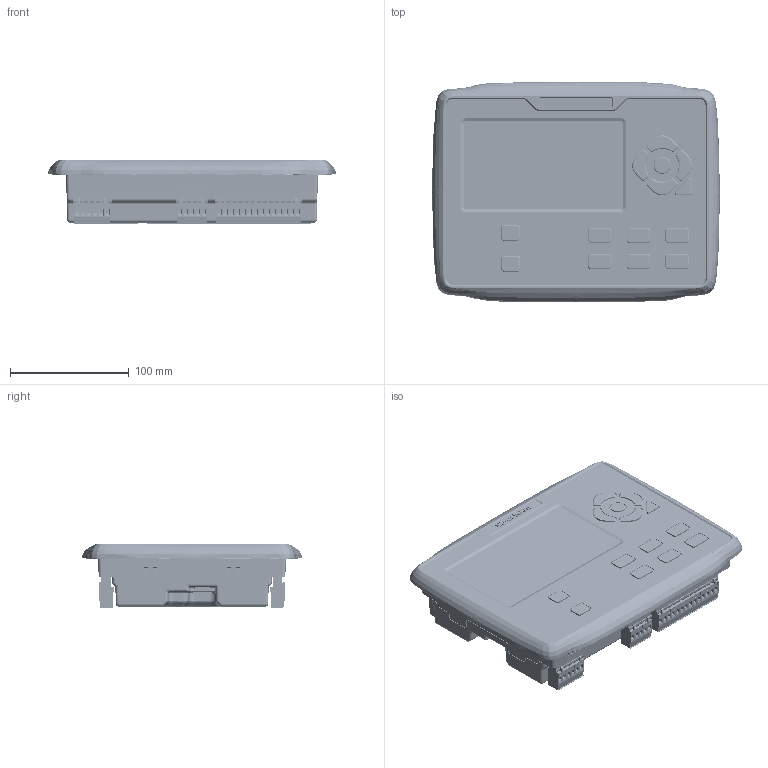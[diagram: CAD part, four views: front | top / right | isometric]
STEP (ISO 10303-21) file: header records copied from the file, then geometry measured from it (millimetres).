
FILE_DESCRIPTION((''),'2;1');
FILE_NAME('HAT9420LT_ASM_15_ASM','2024-06-27T15:59:06',('Administrator'),(''),'CREO PARAMETRIC BY PTC INC, 2019010','CREO PARAMETRIC BY PTC INC, 2019010','');
FILE_SCHEMA(('CONFIG_CONTROL_DESIGN'));
Products named in the file (15): HGM8110DC_WZ_30; HOST_1; RJ-45-_1; 4P-180--7_620001_3; 6P-180--5_080001_2; 10P-180--5_080001_2; 14P-180--5_080001_2; 5P-180--5_080001_2; PRT0001_1; 6P-180_-5_08_2; 10P-180_-5_08_2; 14P-180_-5_08_2; 5P-180_-5_08_2; USB_1; HAT9420LT_ASM_15_ASM
Assembly tree (20 placements, depth 2):
  HAT9420LT_ASM_15_ASM
    HGM8110DC_WZ_30
    HOST_1
    RJ-45-_1
    4P-180--7_620001_3  x2
    6P-180--5_080001_2  x3
    10P-180--5_080001_2
    14P-180--5_080001_2
    5P-180--5_080001_2
    PRT0001_1  x2
    6P-180_-5_08_2  x3
    10P-180_-5_08_2
    14P-180_-5_08_2
    5P-180_-5_08_2
    USB_1
Bounding box: 242.36 x 185.9 x 53.9 mm (x, y, z)
Volume: 1702860.2 mm3; surface area: 207517.9 mm2
Topology: 20 solids, 20 shells, 8670 faces, 22617 edges, 14520 vertices
Faces by surface type: plane 5932, cylinder 1977, cone 350, torus 268, bspline 89, extrusion 41, sphere 13
Entity records: 217721 total; most frequent: CARTESIAN_POINT 55763, ORIENTED_EDGE 34240, DIRECTION 32566, EDGE_CURVE 17120, VECTOR 12436, LINE 12395, VERTEX_POINT 11010, AXIS2_PLACEMENT_3D 10065
